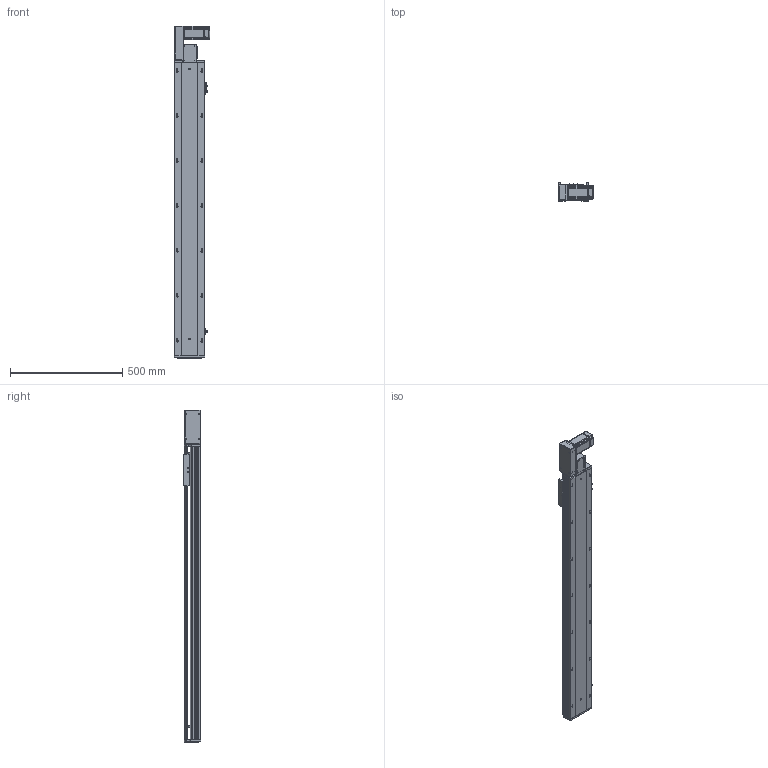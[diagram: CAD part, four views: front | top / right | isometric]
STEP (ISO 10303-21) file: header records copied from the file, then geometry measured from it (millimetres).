
FILE_DESCRIPTION (( 'STEP AP203' ), '1' );
FILE_NAME ('RY140-T-300-LK.SLDASM_1050.step', '2021-03-01T06:35:38', ( '盈信电脑' ), ( '东莞市道滘镇水果街19号' ), 'SwSTEP 2.0', 'SolidWorks 2012', '' );
FILE_SCHEMA (( 'CONFIG_CONTROL_DESIGN' ));
Length unit declared in the file: millimetre
Products named in the file (18): RY140-T-300-LK.SLDASM_1050; RY120-T蹟翐M4; 滅袉蝶18-10; RY140-T萇儂欶; RY140-T翋肮謫裔啣; 侂狟400W侜督萇儂; RY120-T主同步轮轴承压盖; 15; RY120-T肮祭湍揤踡輸2; RY140-T萇儂假蚾啣; RY140-T翋肮祭謫盓傅釱; RY120-T肮祭湍揤踡輸1; RY120外置感应片(140共用）; 覜茼ん672; RY140-T-300-DL倰第奻裔啣_1050; RY140綴裔啣; RY140肮祭謫臏賑輸; RY140-T-300-DL倰第菁釱_1050
Assembly tree (23 placements, depth 3):
  RY140-T-300-LK.SLDASM_1050
    RY140-T-300-DL倰第菁釱_1050
    RY140肮祭謫臏賑輸
    RY140-T-300-DL倰第奻裔啣_1050
    RY140綴裔啣
    覜茼ん672  x3
    RY120外置感应片(140共用）
    RY120-T肮祭湍揤踡輸2
    RY120-T肮祭湍揤踡輸1
    RY140-T翋肮祭謫盓傅釱
    RY140-T萇儂假蚾啣
    侂狟400W侜督萇儂
      15
    RY120-T主同步轮轴承压盖
    RY120-T蹟翐M4  x4
    RY140-T萇儂欶
    滅袉蝶18-10  x2
    RY140-T翋肮謫裔啣
Bounding box: 157 x 78 x 1476.5 mm (x, y, z)
Volume: 4117547.7 mm3; surface area: 1572955.3 mm2
Topology: 22 solids, 22 shells, 2671 faces, 7297 edges, 4678 vertices
Faces by surface type: plane 1381, cylinder 968, cone 222, bspline 100
Entity records: 84277 total; most frequent: CARTESIAN_POINT 20517, ORIENTED_EDGE 13074, DIRECTION 12457, EDGE_CURVE 6537, VERTEX_POINT 4277, VECTOR 4201, LINE 4201, AXIS2_PLACEMENT_3D 4128
